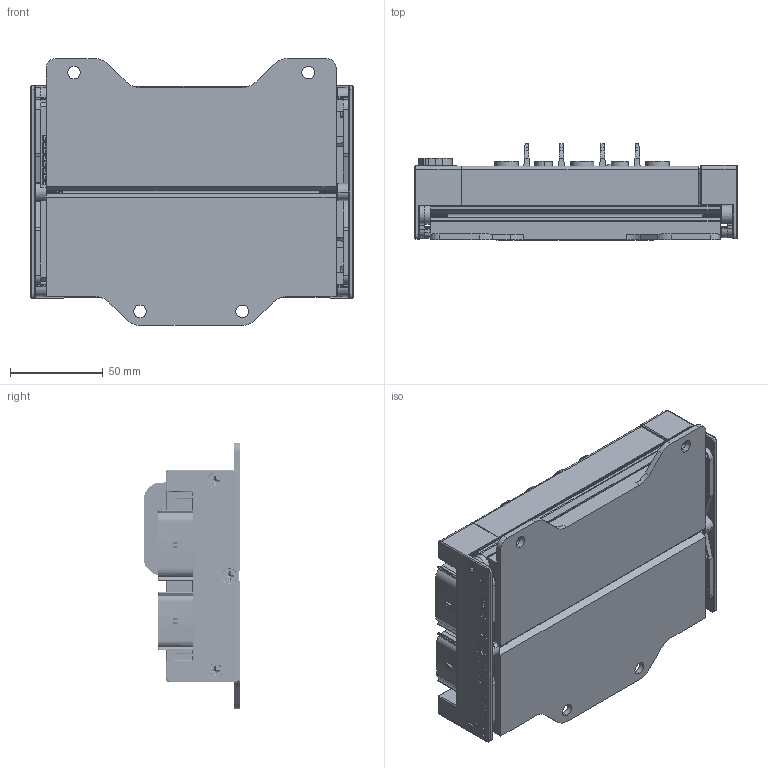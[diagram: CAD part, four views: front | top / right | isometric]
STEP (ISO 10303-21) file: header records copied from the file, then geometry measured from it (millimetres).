
FILE_DESCRIPTION (( 'STEP AP214' ), '1' );
FILE_NAME ('060-001072-01 - INTERFACE, CONTROLLER, BAC3000.STEP', '2025-01-20T20:04:48', ( '' ), ( '' ), 'SwSTEP 2.0', 'SolidWorks 2021', '' );
FILE_SCHEMA (( 'AUTOMOTIVE_DESIGN' ));
Length unit declared in the file: millimetre
Products named in the file (1): 060-001072-01 - INTERFACE, CONTROLLER, BAC3000
Bounding box: 173.51 x 51.5 x 143.53 mm (x, y, z)
Volume: 321250.3 mm3; surface area: 177354.6 mm2
Topology: 18 solids, 18 shells, 5766 faces, 16335 edges, 10915 vertices
Faces by surface type: plane 3768, cylinder 934, bspline 695, cone 306, torus 59, sphere 4
Entity records: 354195 total; most frequent: CARTESIAN_POINT 150121, ORIENTED_EDGE 32554, DIRECTION 24132, EDGE_CURVE 16277, VECTOR 11560, LINE 11560, VERTEX_POINT 10915, AXIS2_PLACEMENT_3D 6286
